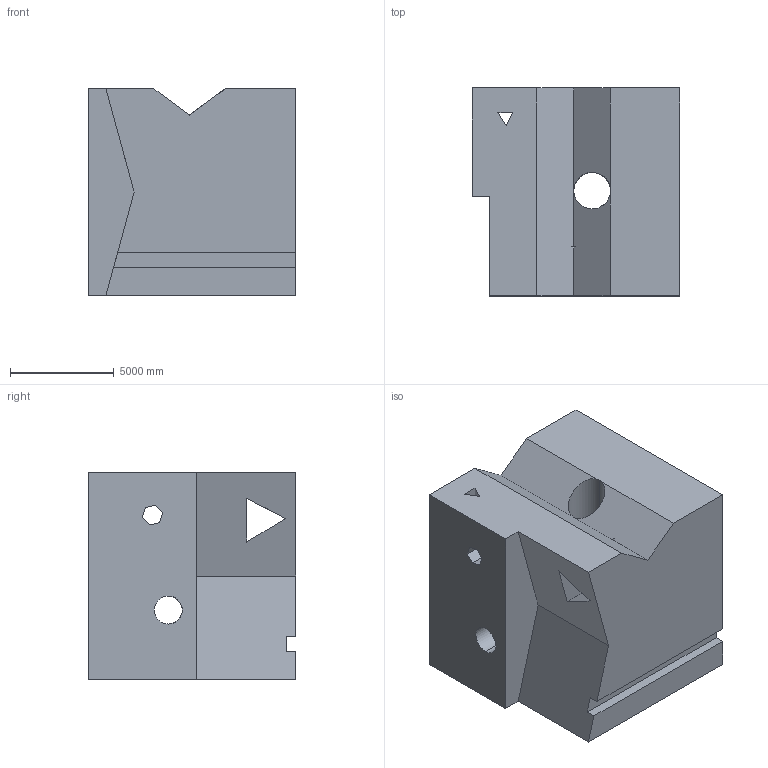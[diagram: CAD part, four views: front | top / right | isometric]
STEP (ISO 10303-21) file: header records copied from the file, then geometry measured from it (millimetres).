
FILE_DESCRIPTION (( 'STEP AP203' ), '1' );
FILE_NAME ('176.STEP', '2022-09-06T13:33:19', ( 'user' ), ( '' ), 'SwSTEP 2.0', 'SolidWorks 2021', '' );
FILE_SCHEMA (( 'CONFIG_CONTROL_DESIGN' ));
Length unit declared in the file: centimetre
Products named in the file (1): 176
Bounding box: 10000 x 10000 x 10000 mm (x, y, z)
Volume: 838448179280.8 mm3; surface area: 787290391.1 mm2
Topology: 1 solids, 1 shells, 32 faces, 101 edges, 68 vertices
Faces by surface type: plane 28, cylinder 4
Entity records: 1529 total; most frequent: CARTESIAN_POINT 527, ORIENTED_EDGE 202, DIRECTION 171, EDGE_CURVE 101, VECTOR 89, LINE 89, VERTEX_POINT 68, EDGE_LOOP 43
